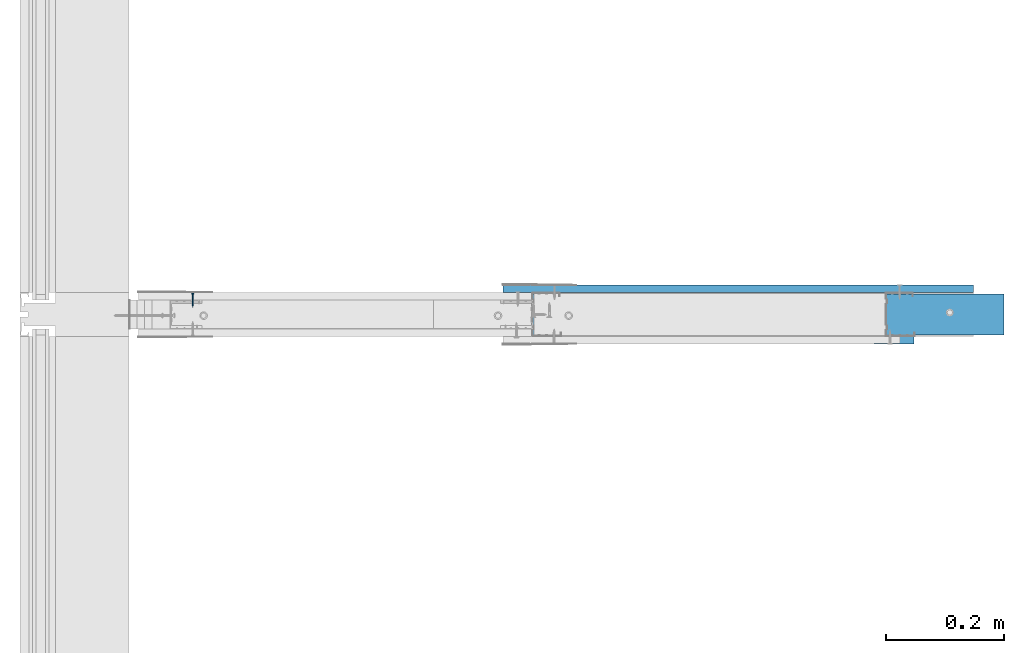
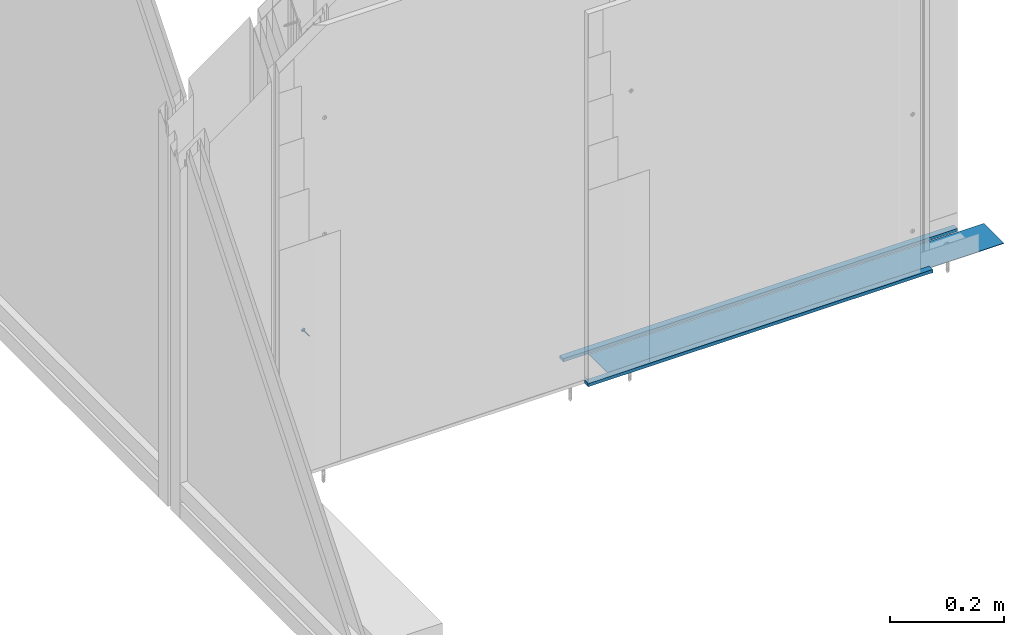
# One storey, part 7 of 42: 4 walls.
"""IFC2X3 building model written with IfcOpenShell, lengths in millimetres."""

from ifc_helpers import new_model, entity, si_unit, converted_unit, direction, frame, origin, origin_with_axes, place, context, project, spatial, faceted_brep, element, save


model = new_model("IFC2X3")

# Units and contexts
model_context = context("Model", 3, precision=1e-05, world=origin(), true_north=direction((0.0, 1.0, 0.0)))
ifc_project = project(units=[si_unit("LENGTHUNIT", "METRE", prefix="MILLI"), si_unit("AREAUNIT", "SQUARE_METRE"), si_unit("VOLUMEUNIT", "CUBIC_METRE"), converted_unit("PLANEANGLEUNIT", "DEGREE", entity("IfcPlaneAngleMeasure", 0.01745), si_unit("PLANEANGLEUNIT", "RADIAN"), dimensions=[0, 0, 0, 0, 0, 0, 0]), si_unit("SOLIDANGLEUNIT", "STERADIAN"), si_unit("MASSUNIT", "GRAM"), si_unit("TIMEUNIT", "SECOND"), si_unit("THERMODYNAMICTEMPERATUREUNIT", "DEGREE_CELSIUS"), si_unit("LUMINOUSINTENSITYUNIT", "LUMEN")], contexts=[model_context])

# Site, building, storey
site_placement = place(None, origin_with_axes())
site = spatial("IfcSite", under=ifc_project, at=site_placement, Name="Default Site", CompositionType="ELEMENT")
building_placement = place(site_placement, origin_with_axes())
building = spatial("IfcBuilding", under=site, at=building_placement, Name="Default Building", CompositionType="ELEMENT")
storey_placement = place(building_placement, origin_with_axes())
storey = spatial("IfcBuildingStorey", under=building, at=storey_placement, Name="Default Building Storey", CompositionType="ELEMENT", Elevation=0.0)

# Walls
wall_1_placement = place(storey_placement, frame((2280.89032292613, -1336.314155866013, -299.8785300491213), z_axis=(0.0, 0.0, 1.0), x_axis=(-1.0, -5.916968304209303e-16, 0.0)))
element("IfcWall", 1, at=wall_1_placement, inside=storey, Name="Wkręt RIGIPS TN 25", context=model_context, shape_type="Brep", body=[
    faceted_brep([(-141.5377463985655, -3390.556721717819, 555.8000000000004), (-141.5377463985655, -3391.020944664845, 555.8000000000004), (-141.4875329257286, -3391.020944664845, 555.1619773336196), (-141.4875329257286, -3390.556721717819, 555.1619773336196), (-141.338128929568, -3391.020944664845, 554.5396649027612), (-141.338128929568, -3390.556721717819, 554.5396649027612), (-141.0932132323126, -3391.020944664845, 553.9483861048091), (-141.0932132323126, -3390.556721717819, 553.9483861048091), (-140.7588164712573, -3391.020944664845, 553.4027001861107), (-140.7588164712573, -3390.556721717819, 553.4027001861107), (-140.3431726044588, -3391.020944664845, 552.9160437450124), (-140.4541727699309, -3390.556721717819, 553.0314907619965), (-140.1080097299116, -3390.556721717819, 552.6986614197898), (-139.8565161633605, -3391.020944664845, 552.5003998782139), (-139.7251262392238, -3390.556721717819, 552.4088262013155), (-139.3108302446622, -3391.020944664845, 552.1660031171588), (-139.3108302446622, -3390.556721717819, 552.1660031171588), (-138.8708651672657, -3390.556721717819, 551.9735584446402), (-138.7195514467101, -3391.020944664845, 551.9210874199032), (-138.4113302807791, -3390.556721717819, 551.8341600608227), (-137.9385961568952, -3390.556721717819, 551.7497404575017), (-138.0972390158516, -3391.020944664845, 551.7716834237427), (-137.459216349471, -3391.020944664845, 551.7214699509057), (-137.459216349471, -3390.556721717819, 551.7214699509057), (-136.8211936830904, -3391.020944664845, 551.7716834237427), (-136.8211936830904, -3390.556721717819, 551.7716834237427), (-136.198881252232, -3391.020944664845, 551.9210874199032), (-136.198881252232, -3390.556721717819, 551.9210874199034), (-135.6076024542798, -3391.020944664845, 552.1660031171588), (-135.6076024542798, -3390.556721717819, 552.1660031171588), (-135.0619165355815, -3391.020944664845, 552.5003998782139), (-135.0619165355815, -3390.556721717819, 552.5003998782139), (-134.5752600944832, -3391.020944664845, 552.9160437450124), (-134.5752600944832, -3390.556721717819, 552.9160437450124), (-134.1596162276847, -3391.020944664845, 553.4027001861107), (-134.1596162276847, -3390.556721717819, 553.4027001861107), (-133.8252194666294, -3391.020944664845, 553.9483861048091), (-133.8252194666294, -3390.556721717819, 553.9483861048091), (-133.580303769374, -3391.020944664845, 554.5396649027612), (-133.580303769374, -3390.556721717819, 554.5396649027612), (-133.4308997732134, -3391.020944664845, 556.4380226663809), (-133.4308997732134, -3390.556721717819, 556.4380226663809), (-133.3806863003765, -3390.556721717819, 555.8000000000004), (-133.3806863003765, -3391.020944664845, 555.8000000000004), (-133.4308997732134, -3390.556721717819, 555.1619773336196), (-133.4308997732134, -3391.020944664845, 555.1619773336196), (-133.580303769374, -3391.020944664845, 557.0603350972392), (-133.580303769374, -3390.556721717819, 557.0603350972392), (-133.8252194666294, -3391.020944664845, 557.6516138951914), (-133.8252194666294, -3390.556721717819, 557.6516138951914), (-134.1596162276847, -3391.020944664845, 558.1972998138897), (-134.1596162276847, -3390.556721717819, 558.1972998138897), (-134.5752600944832, -3391.020944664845, 558.683956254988), (-134.5752600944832, -3390.556721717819, 558.683956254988), (-135.0619165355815, -3391.020944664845, 559.0996001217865), (-135.0619165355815, -3390.556721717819, 559.0996001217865), (-135.6076024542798, -3391.020944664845, 559.4339968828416), (-135.6076024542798, -3390.556721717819, 559.4339968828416), (-136.198881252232, -3391.020944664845, 559.6789125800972), (-136.198881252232, -3390.556721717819, 559.6789125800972), (-136.8211936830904, -3391.020944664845, 559.8283165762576), (-136.8211936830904, -3390.556721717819, 559.8283165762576), (-137.459216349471, -3391.020944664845, 559.8785300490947), (-137.459216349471, -3390.556721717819, 559.8785300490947), (-138.0972390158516, -3391.020944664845, 559.8283165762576), (-138.0972390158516, -3390.556721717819, 559.8283165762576), (-138.7195514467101, -3391.020944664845, 559.6789125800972), (-138.7195514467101, -3390.556721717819, 559.6789125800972), (-139.3108302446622, -3391.020944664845, 559.4339968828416), (-139.3108302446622, -3390.556721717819, 559.4339968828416), (-139.8565161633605, -3391.020944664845, 559.0996001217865), (-139.8565161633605, -3390.556721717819, 559.0996001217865), (-140.3431726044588, -3391.020944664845, 558.683956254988), (-140.3431726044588, -3390.556721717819, 558.683956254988), (-140.7588164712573, -3391.020944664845, 558.1972998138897), (-140.7588164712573, -3390.556721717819, 558.1972998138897), (-141.0932132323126, -3391.020944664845, 557.6516138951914), (-141.0932132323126, -3390.556721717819, 557.6516138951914), (-141.338128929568, -3391.020944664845, 557.0603350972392), (-141.338128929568, -3390.556721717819, 557.0603350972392), (-141.4875329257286, -3391.020944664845, 556.4380226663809), (-141.4875329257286, -3390.556721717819, 556.4380226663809), (-137.8060615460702, -3388.229732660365, 554.5055560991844), (-137.459216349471, -3387.475459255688, 554.5693795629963), (-137.6517277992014, -3387.475459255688, 554.5845305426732), (-137.459216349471, -3388.229732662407, 554.4598930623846), (-137.8394989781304, -3387.475459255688, 554.6296104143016), (-138.1292698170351, -3388.229732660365, 554.639433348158), (-138.0179063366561, -3387.475459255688, 554.7035091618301), (-138.1825568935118, -3387.475459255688, 554.804407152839), (-138.4068150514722, -3388.229732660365, 554.8524012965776), (-138.3293964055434, -3387.475459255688, 554.929819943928), (-138.6197830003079, -3388.229732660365, 555.1299465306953), (-138.4548091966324, -3387.475459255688, 555.0766594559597), (-138.5557071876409, -3387.475459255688, 555.2413100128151), (-138.7536602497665, -3388.229732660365, 555.4531548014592), (-138.6296059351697, -3387.475459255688, 555.4197173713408), (-138.6746858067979, -3387.475459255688, 555.6074885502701), (-138.7993232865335, -3388.229732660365, 555.7999999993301), (-138.6898367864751, -3387.475459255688, 555.8000000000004), (-138.7536602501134, -3388.229732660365, 556.1468451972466), (-138.6746858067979, -3387.475459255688, 555.9925114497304), (-138.6296059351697, -3387.475459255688, 556.1802826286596), (-138.6197830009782, -3388.229732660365, 556.4700534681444), (-138.5557071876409, -3387.475459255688, 556.3586899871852), (-138.4548091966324, -3387.475459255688, 556.5233405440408), (-138.4068150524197, -3388.229732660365, 556.7475987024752), (-138.3293964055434, -3387.475459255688, 556.6701800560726), (-138.1292698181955, -3388.229732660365, 556.9605666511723), (-138.1825568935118, -3387.475459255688, 556.7955928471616), (-138.0179063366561, -3387.475459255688, 556.8964908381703), (-137.8060615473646, -3388.229732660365, 557.0944439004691), (-137.8394989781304, -3387.475459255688, 556.9703895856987), (-137.6517277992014, -3387.475459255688, 557.0154694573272), (-137.459216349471, -3388.229732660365, 557.1401069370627), (-137.459216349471, -3387.475459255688, 557.0306204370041), (-137.1123711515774, -3388.229732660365, 557.0944439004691), (-137.2667048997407, -3387.475459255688, 557.0154694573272), (-137.0789337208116, -3387.475459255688, 556.9703895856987), (-136.7891628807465, -3388.229732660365, 556.9605666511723), (-136.9005263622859, -3387.475459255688, 556.8964908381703), (-136.7358758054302, -3387.475459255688, 556.7955928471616), (-136.5116176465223, -3388.229732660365, 556.7475987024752), (-136.5890362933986, -3387.475459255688, 556.6701800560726), (-136.2986496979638, -3388.229732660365, 556.4700534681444), (-136.4636235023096, -3387.475459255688, 556.5233405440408), (-136.3627255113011, -3387.475459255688, 556.3586899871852), (-136.1647724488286, -3388.229732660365, 556.1468451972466), (-136.2888267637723, -3387.475459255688, 556.1802826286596), (-136.2437468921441, -3387.475459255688, 555.9925114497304), (-136.1191094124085, -3388.229732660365, 555.7999999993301), (-136.2285959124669, -3387.475459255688, 555.8000000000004), (-136.1647724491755, -3388.229732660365, 555.4531548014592), (-136.2437468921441, -3387.475459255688, 555.6074885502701), (-136.2888267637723, -3387.475459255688, 555.4197173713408), (-136.2986496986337, -3388.229732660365, 555.1299465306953), (-136.3627255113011, -3387.475459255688, 555.2413100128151), (-136.4636235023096, -3387.475459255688, 555.0766594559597), (-136.5116176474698, -3388.229732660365, 554.8524012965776), (-136.5890362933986, -3387.475459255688, 554.929819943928), (-136.7891628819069, -3388.229732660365, 554.639433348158), (-136.7358758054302, -3387.475459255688, 554.804407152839), (-136.9005263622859, -3387.475459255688, 554.7035091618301), (-137.1123711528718, -3388.229732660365, 554.5055560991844), (-137.0789337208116, -3387.475459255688, 554.6296104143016), (-137.2667048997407, -3387.475459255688, 554.5845305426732), (-137.459216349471, -3388.936142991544, 554.1737111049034), (-137.8801308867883, -3388.936142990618, 554.2291255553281), (-138.2723607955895, -3388.936142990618, 554.3915925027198), (-138.6091762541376, -3388.936142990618, 554.6500400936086), (-138.8676238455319, -3388.936142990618, 554.9868555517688), (-139.030090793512, -3388.936142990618, 555.3790854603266), (-139.0855052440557, -3388.936142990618, 555.7999999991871), (-139.0300907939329, -3388.936142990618, 556.2209145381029), (-138.8676238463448, -3388.936142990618, 556.6131444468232), (-138.6091762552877, -3388.936142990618, 556.949959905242), (-138.272360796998, -3388.936142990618, 557.2084074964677), (-137.8801308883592, -3388.936142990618, 557.3708744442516), (-137.459216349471, -3388.936142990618, 557.4262888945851), (-137.0383018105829, -3388.936142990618, 557.3708744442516), (-136.646071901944, -3388.936142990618, 557.2084074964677), (-136.3092564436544, -3388.936142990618, 556.949959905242), (-136.0508088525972, -3388.936142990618, 556.6131444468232), (-135.8883419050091, -3388.936142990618, 556.2209145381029), (-135.8329274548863, -3388.936142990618, 555.7999999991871), (-135.88834190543, -3388.936142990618, 555.3790854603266), (-136.0508088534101, -3388.936142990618, 554.9868555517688), (-136.3092564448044, -3388.936142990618, 554.6500400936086), (-136.6460719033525, -3388.936142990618, 554.3915925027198), (-137.0383018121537, -3388.936142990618, 554.2291255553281), (-137.459216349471, -3389.553938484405, 553.727343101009), (-137.995659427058, -3389.553938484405, 553.7979671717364), (-138.4955447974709, -3389.553938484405, 554.005026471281), (-138.9248060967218, -3389.553938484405, 554.334410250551), (-139.2541898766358, -3389.553938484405, 554.7636715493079), (-139.46124917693, -3389.553938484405, 555.2635569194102), (-139.5318732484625, -3389.553938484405, 555.7999999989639), (-139.4612491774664, -3389.553938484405, 556.3364430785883), (-139.2541898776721, -3389.553938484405, 556.8363284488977), (-138.9248060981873, -3389.553938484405, 557.2655897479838), (-138.495544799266, -3389.553938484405, 557.5949735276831), (-137.9956594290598, -3389.553938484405, 557.8020328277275), (-137.459216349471, -3389.553938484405, 557.8726568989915), (-136.9227732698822, -3389.553938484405, 557.8020328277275), (-136.422887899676, -3389.553938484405, 557.5949735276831), (-135.9936266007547, -3389.553938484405, 557.2655897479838), (-135.6642428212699, -3389.553938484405, 556.8363284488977), (-135.4571835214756, -3389.553938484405, 556.3364430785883), (-135.3865594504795, -3389.553938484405, 555.7999999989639), (-135.457183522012, -3389.553938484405, 555.2635569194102), (-135.6642428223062, -3389.553938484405, 554.7636715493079), (-135.9936266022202, -3389.553938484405, 554.334410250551), (-136.4228879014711, -3389.553938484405, 554.005026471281), (-136.922773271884, -3389.553938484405, 553.7979671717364), (-137.459216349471, -3390.047479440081, 553.1465393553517), (-138.1459824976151, -3390.047479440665, 553.2369538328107), (-138.7859466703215, -3390.047479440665, 553.5020356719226), (-139.3354963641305, -3390.047479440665, 553.9237199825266), (-139.7571806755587, -3390.047479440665, 554.4732696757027), (-140.0222625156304, -3390.047479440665, 555.1132338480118), (-140.1126769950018, -3390.047479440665, 555.7999999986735), (-140.0222625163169, -3390.047479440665, 556.4867661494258), (-139.7571806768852, -3390.047479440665, 557.1267303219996), (-139.3354963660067, -3390.047479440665, 557.6762800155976), (-138.7859466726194, -3390.047479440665, 558.0979643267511), (-138.1459825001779, -3390.047479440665, 558.3630461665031), (-137.459216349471, -3390.047479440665, 558.4534606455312), (-136.7724501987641, -3390.047479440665, 558.3630461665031), (-136.1324860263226, -3390.047479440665, 558.0979643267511), (-135.5829363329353, -3390.047479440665, 557.6762800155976), (-135.1612520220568, -3390.047479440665, 557.1267303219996), (-134.8961701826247, -3390.047479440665, 556.4867661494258), (-134.8057557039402, -3390.047479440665, 555.7999999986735), (-134.8961701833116, -3390.047479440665, 555.1132338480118), (-135.1612520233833, -3390.047479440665, 554.4732696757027), (-135.5829363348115, -3390.047479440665, 553.9237199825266), (-136.1324860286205, -3390.047479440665, 553.5020356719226), (-136.7724502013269, -3390.047479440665, 553.2369538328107), (-137.459216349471, -3390.388294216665, 552.4648055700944), (-138.3224281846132, -3390.388294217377, 552.5784495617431), (-139.1268135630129, -3390.388294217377, 552.9116368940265), (-139.8175549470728, -3390.388294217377, 553.4416613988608), (-140.3475794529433, -3390.388294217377, 554.1324027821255), (-140.6807667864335, -3390.388294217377, 554.9367881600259), (-140.7944107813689, -3390.388294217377, 555.7999999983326), (-140.6807667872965, -3390.388294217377, 556.6632118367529), (-140.3475794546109, -3390.388294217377, 557.4675972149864), (-139.8175549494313, -3390.388294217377, 558.1583385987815), (-139.1268135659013, -3390.388294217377, 558.6883631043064), (-138.3224281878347, -3390.388294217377, 559.0215504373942), (-137.459216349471, -3390.388294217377, 559.1351944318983), (-136.5960045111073, -3390.388294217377, 559.0215504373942), (-135.7916191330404, -3390.388294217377, 558.6883631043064), (-135.1008777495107, -3390.388294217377, 558.1583385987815), (-134.5708532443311, -3390.388294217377, 557.4675972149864), (-134.2376659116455, -3390.388294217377, 556.6632118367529), (-134.1240219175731, -3390.388294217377, 555.7999999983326), (-134.2376659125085, -3390.388294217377, 554.9367881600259), (-134.5708532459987, -3390.388294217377, 554.1324027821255), (-135.1008777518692, -3390.388294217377, 553.4416613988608), (-135.7916191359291, -3390.388294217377, 552.9116368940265), (-136.5960045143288, -3390.388294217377, 552.5784495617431), (-138.6898367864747, -3370.55807436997, 555.8000000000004), (-138.6746858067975, -3370.55807436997, 555.6074885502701), (-138.6296059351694, -3370.55807436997, 555.4197173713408), (-138.5557071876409, -3370.55807436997, 555.2413100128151), (-138.4548091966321, -3370.55807436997, 555.0766594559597), (-138.329396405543, -3370.55807436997, 554.929819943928), (-138.1825568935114, -3370.55807436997, 554.804407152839), (-138.0179063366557, -3370.55807436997, 554.7035091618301), (-137.83949897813, -3370.55807436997, 554.6296104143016), (-137.651727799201, -3370.55807436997, 554.5845305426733), (-137.4592163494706, -3370.55807436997, 554.5693795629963), (-137.2667048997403, -3370.55807436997, 554.5845305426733), (-137.0789337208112, -3370.55807436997, 554.6296104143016), (-136.9005263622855, -3370.55807436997, 554.7035091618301), (-136.7358758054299, -3370.55807436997, 554.804407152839), (-136.5890362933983, -3370.55807436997, 554.929819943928), (-136.4636235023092, -3370.55807436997, 555.0766594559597), (-136.3627255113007, -3370.55807436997, 555.2413100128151), (-136.2888267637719, -3370.55807436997, 555.4197173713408), (-136.2437468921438, -3370.55807436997, 555.9925114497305), (-136.2285959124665, -3370.55807436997, 555.8000000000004), (-136.2437468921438, -3370.55807436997, 555.6074885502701), (-136.2888267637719, -3370.55807436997, 556.1802826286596), (-136.3627255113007, -3370.55807436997, 556.3586899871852), (-136.4636235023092, -3370.55807436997, 556.5233405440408), (-136.5890362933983, -3370.55807436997, 556.6701800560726), (-136.7358758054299, -3370.55807436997, 556.7955928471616), (-136.9005263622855, -3370.55807436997, 556.8964908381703), (-137.0789337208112, -3370.55807436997, 556.9703895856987), (-137.2667048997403, -3370.55807436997, 557.0154694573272), (-137.4592163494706, -3370.55807436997, 557.0306204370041), (-137.651727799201, -3370.55807436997, 557.0154694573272), (-137.83949897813, -3370.55807436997, 556.9703895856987), (-138.0179063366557, -3370.55807436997, 556.8964908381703), (-138.1825568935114, -3370.55807436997, 556.7955928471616), (-138.329396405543, -3370.55807436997, 556.6701800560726), (-138.4548091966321, -3370.55807436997, 556.5233405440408), (-138.5557071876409, -3370.55807436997, 556.3586899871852), (-138.6296059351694, -3370.55807436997, 556.1802826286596), (-138.6746858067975, -3370.55807436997, 555.9925114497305), (-137.4592163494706, -3366.021033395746, 555.8000000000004), (-139.9592163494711, -3391.020944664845, 556.3000000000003), (-137.9592163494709, -3391.020944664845, 556.3000000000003), (-139.9592163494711, -3391.020944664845, 555.3000000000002), (-137.9592163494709, -3391.020944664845, 555.3000000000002), (-137.9592163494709, -3391.020944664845, 553.3000000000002), (-136.9592163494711, -3391.020944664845, 553.3000000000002), (-136.9592163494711, -3391.020944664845, 555.3000000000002), (-134.9592163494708, -3391.020944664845, 555.3000000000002), (-134.9592163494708, -3391.020944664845, 556.3000000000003), (-136.9592163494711, -3391.020944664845, 556.3000000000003), (-136.9592163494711, -3391.020944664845, 558.3000000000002), (-137.9592163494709, -3391.020944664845, 558.3000000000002), (-136.9592163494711, -3390.128974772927, 556.3000000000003), (-134.9592163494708, -3390.128974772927, 556.3000000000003), (-134.9592163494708, -3390.128974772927, 555.3000000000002), (-136.9592163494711, -3390.128974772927, 555.3000000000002), (-136.9592163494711, -3390.128974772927, 553.3000000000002), (-137.9592163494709, -3390.128974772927, 553.3000000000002), (-137.9592163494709, -3390.128974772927, 555.3000000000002), (-139.9592163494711, -3390.128974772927, 555.3000000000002), (-139.9592163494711, -3390.128974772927, 556.3000000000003), (-137.9592163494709, -3390.128974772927, 556.3000000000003), (-137.9592163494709, -3390.128974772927, 558.3000000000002), (-136.9592163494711, -3390.128974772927, 558.3000000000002)], [[[0, 1, 2, 3]], [[4, 5, 3, 2]], [[6, 7, 5, 4]], [[7, 6, 8, 9]], [[8, 10, 9]], [[10, 11, 9]], [[12, 11, 13]], [[11, 10, 13]], [[13, 14, 12]], [[13, 15, 14]], [[15, 16, 14]], [[17, 16, 18]], [[16, 15, 18]], [[18, 19, 17]], [[20, 19, 21]], [[19, 18, 21]], [[21, 22, 20]], [[22, 23, 20]], [[23, 22, 24, 25]], [[26, 27, 25, 24]], [[28, 29, 27, 26]], [[29, 28, 30, 31]], [[32, 33, 31, 30]], [[33, 32, 34, 35]], [[36, 37, 35, 34]], [[38, 39, 37, 36]], [[40, 41, 42, 43]], [[43, 42, 44, 45]], [[39, 38, 45, 44]], [[46, 47, 41, 40]], [[48, 49, 47, 46]], [[49, 48, 50, 51]], [[52, 53, 51, 50]], [[53, 52, 54, 55]], [[56, 57, 55, 54]], [[58, 59, 57, 56]], [[59, 58, 60, 61]], [[62, 63, 61, 60]], [[63, 62, 64, 65]], [[66, 67, 65, 64]], [[68, 69, 67, 66]], [[69, 68, 70, 71]], [[72, 73, 71, 70]], [[73, 72, 74, 75]], [[76, 77, 75, 74]], [[78, 79, 77, 76]], [[79, 78, 80, 81]], [[1, 0, 81, 80]], [[82, 83, 84]], [[82, 85, 83]], [[84, 86, 82]], [[82, 86, 87]], [[88, 87, 86]], [[87, 88, 89]], [[89, 90, 87]], [[89, 91, 90]], [[92, 91, 93]], [[92, 90, 91]], [[93, 94, 92]], [[92, 94, 95]], [[96, 95, 94]], [[95, 96, 97]], [[97, 98, 95]], [[97, 99, 98]], [[100, 99, 101]], [[100, 98, 99]], [[101, 102, 100]], [[100, 102, 103]], [[104, 103, 102]], [[103, 104, 105]], [[105, 106, 103]], [[105, 107, 106]], [[108, 107, 109]], [[108, 106, 107]], [[109, 110, 108]], [[108, 110, 111]], [[112, 111, 110]], [[111, 112, 113]], [[113, 114, 111]], [[113, 115, 114]], [[116, 115, 117]], [[116, 114, 115]], [[117, 118, 116]], [[116, 118, 119]], [[120, 119, 118]], [[119, 120, 121]], [[121, 122, 119]], [[121, 123, 122]], [[124, 123, 125]], [[124, 122, 123]], [[125, 126, 124]], [[124, 126, 127]], [[128, 127, 126]], [[127, 128, 129]], [[129, 130, 127]], [[129, 131, 130]], [[132, 131, 133]], [[132, 130, 131]], [[133, 134, 132]], [[132, 134, 135]], [[136, 135, 134]], [[135, 136, 137]], [[137, 138, 135]], [[137, 139, 138]], [[140, 139, 141]], [[140, 138, 139]], [[141, 142, 140]], [[140, 142, 143]], [[144, 143, 142]], [[143, 144, 145]], [[145, 85, 143]], [[145, 83, 85]], [[146, 85, 147]], [[82, 147, 85]], [[87, 148, 147, 82]], [[90, 149, 148, 87]], [[92, 150, 149, 90]], [[95, 151, 150, 92]], [[98, 152, 151, 95]], [[100, 153, 152, 98]], [[103, 154, 153, 100]], [[106, 155, 154, 103]], [[108, 156, 155, 106]], [[111, 157, 156, 108]], [[114, 158, 157, 111]], [[116, 159, 158, 114]], [[119, 160, 159, 116]], [[122, 161, 160, 119]], [[124, 162, 161, 122]], [[127, 163, 162, 124]], [[130, 164, 163, 127]], [[132, 165, 164, 130]], [[135, 166, 165, 132]], [[138, 167, 166, 135]], [[140, 168, 167, 138]], [[143, 169, 168, 140]], [[143, 85, 169]], [[146, 169, 85]], [[170, 146, 171]], [[147, 171, 146]], [[148, 172, 171, 147]], [[149, 173, 172, 148]], [[150, 174, 173, 149]], [[151, 175, 174, 150]], [[152, 176, 175, 151]], [[153, 177, 176, 152]], [[154, 178, 177, 153]], [[155, 179, 178, 154]], [[156, 180, 179, 155]], [[157, 181, 180, 156]], [[158, 182, 181, 157]], [[159, 183, 182, 158]], [[160, 184, 183, 159]], [[161, 185, 184, 160]], [[162, 186, 185, 161]], [[163, 187, 186, 162]], [[164, 188, 187, 163]], [[165, 189, 188, 164]], [[166, 190, 189, 165]], [[167, 191, 190, 166]], [[168, 192, 191, 167]], [[169, 193, 192, 168]], [[169, 146, 193]], [[170, 193, 146]], [[194, 170, 195]], [[171, 195, 170]], [[172, 196, 195, 171]], [[173, 197, 196, 172]], [[174, 198, 197, 173]], [[175, 199, 198, 174]], [[176, 200, 199, 175]], [[177, 201, 200, 176]], [[178, 202, 201, 177]], [[179, 203, 202, 178]], [[180, 204, 203, 179]], [[181, 205, 204, 180]], [[182, 206, 205, 181]], [[183, 207, 206, 182]], [[184, 208, 207, 183]], [[185, 209, 208, 184]], [[186, 210, 209, 185]], [[187, 211, 210, 186]], [[188, 212, 211, 187]], [[189, 213, 212, 188]], [[190, 214, 213, 189]], [[191, 215, 214, 190]], [[192, 216, 215, 191]], [[193, 217, 216, 192]], [[193, 170, 217]], [[194, 217, 170]], [[218, 19, 20]], [[218, 219, 19]], [[20, 23, 218]], [[218, 194, 219]], [[195, 219, 194]], [[219, 16, 17]], [[219, 220, 16]], [[17, 19, 219]], [[196, 220, 219, 195]], [[221, 11, 12]], [[220, 12, 14]], [[220, 221, 12]], [[14, 16, 220]], [[197, 221, 220, 196]], [[222, 7, 9]], [[9, 221, 222]], [[9, 11, 221]], [[198, 222, 221, 197]], [[5, 7, 223]], [[222, 223, 7]], [[199, 223, 222, 198]], [[223, 0, 3]], [[223, 224, 0]], [[3, 5, 223]], [[200, 224, 223, 199]], [[225, 79, 81]], [[81, 224, 225]], [[81, 0, 224]], [[201, 225, 224, 200]], [[225, 226, 77, 79]], [[202, 226, 225, 201]], [[226, 73, 75]], [[226, 227, 73]], [[75, 77, 226]], [[203, 227, 226, 202]], [[228, 69, 71]], [[71, 227, 228]], [[71, 73, 227]], [[204, 228, 227, 203]], [[228, 229, 67, 69]], [[205, 229, 228, 204]], [[229, 63, 65]], [[229, 230, 63]], [[65, 67, 229]], [[206, 230, 229, 205]], [[231, 59, 61]], [[61, 230, 231]], [[61, 63, 230]], [[207, 231, 230, 206]], [[231, 232, 57, 59]], [[208, 232, 231, 207]], [[232, 53, 55]], [[232, 233, 53]], [[55, 57, 232]], [[209, 233, 232, 208]], [[234, 49, 51]], [[51, 233, 234]], [[51, 53, 233]], [[210, 234, 233, 209]], [[234, 235, 47, 49]], [[211, 235, 234, 210]], [[235, 42, 41]], [[235, 236, 42]], [[41, 47, 235]], [[212, 236, 235, 211]], [[237, 39, 44]], [[44, 236, 237]], [[44, 42, 236]], [[213, 237, 236, 212]], [[37, 39, 238]], [[237, 238, 39]], [[214, 238, 237, 213]], [[238, 33, 35]], [[238, 239, 33]], [[35, 37, 238]], [[215, 239, 238, 214]], [[240, 29, 31]], [[31, 239, 240]], [[31, 33, 239]], [[216, 240, 239, 215]], [[27, 29, 241]], [[240, 241, 29]], [[217, 241, 240, 216]], [[217, 194, 241]], [[218, 241, 194]], [[241, 23, 25]], [[241, 218, 23]], [[25, 27, 241]], [[242, 99, 97, 243]], [[96, 244, 243, 97]], [[94, 245, 244, 96]], [[245, 94, 93, 246]], [[91, 247, 246, 93]], [[247, 91, 89, 248]], [[88, 249, 248, 89]], [[86, 250, 249, 88]], [[250, 86, 84, 251]], [[83, 252, 251, 84]], [[252, 83, 145, 253]], [[144, 254, 253, 145]], [[142, 255, 254, 144]], [[255, 142, 141, 256]], [[139, 257, 256, 141]], [[257, 139, 137, 258]], [[136, 259, 258, 137]], [[134, 260, 259, 136]], [[129, 261, 262, 131]], [[131, 262, 263, 133]], [[260, 134, 133, 263]], [[128, 264, 261, 129]], [[126, 265, 264, 128]], [[265, 126, 125, 266]], [[123, 267, 266, 125]], [[267, 123, 121, 268]], [[120, 269, 268, 121]], [[118, 270, 269, 120]], [[270, 118, 117, 271]], [[115, 272, 271, 117]], [[272, 115, 113, 273]], [[112, 274, 273, 113]], [[110, 275, 274, 112]], [[275, 110, 109, 276]], [[107, 277, 276, 109]], [[277, 107, 105, 278]], [[104, 279, 278, 105]], [[102, 280, 279, 104]], [[280, 102, 101, 281]], [[99, 242, 281, 101]], [[243, 244, 282]], [[282, 242, 243]], [[244, 245, 282]], [[246, 247, 282]], [[282, 245, 246]], [[248, 249, 282]], [[282, 247, 248]], [[249, 250, 282]], [[251, 252, 282]], [[282, 250, 251]], [[253, 254, 282]], [[282, 252, 253]], [[254, 255, 282]], [[256, 257, 282]], [[282, 255, 256]], [[258, 259, 282]], [[282, 257, 258]], [[259, 260, 282]], [[263, 262, 282]], [[282, 260, 263]], [[261, 264, 282]], [[282, 262, 261]], [[264, 265, 282]], [[266, 267, 282]], [[282, 265, 266]], [[268, 269, 282]], [[282, 267, 268]], [[269, 270, 282]], [[271, 272, 282]], [[282, 270, 271]], [[273, 274, 282]], [[282, 272, 273]], [[274, 275, 282]], [[276, 277, 282]], [[282, 275, 276]], [[278, 279, 282]], [[282, 277, 278]], [[279, 280, 282]], [[281, 242, 282]], [[282, 280, 281]], [[283, 76, 74, 284]], [[283, 285, 286, 287, 288, 289, 290, 291, 292, 293, 294, 284, 74, 72, 70, 68, 66, 64, 62, 60, 58, 56, 54, 52, 50, 48, 46, 40, 43, 45, 38, 36, 34, 32, 30, 28, 26, 24, 22, 21, 18, 15, 13, 10, 8, 6, 4, 2, 1, 80, 78, 76]], [[295, 296, 297, 298, 299, 300, 301, 302, 303, 304, 305, 306]], [[297, 290, 289, 298]], [[296, 291, 290, 297]], [[295, 292, 291, 296]], [[306, 293, 292, 295]], [[305, 294, 293, 306]], [[304, 284, 294, 305]], [[303, 283, 284, 304]], [[302, 285, 283, 303]], [[301, 286, 285, 302]], [[300, 287, 286, 301]], [[299, 288, 287, 300]], [[298, 289, 288, 299]]]),
])
wall_2_placement = place(storey_placement, frame((2852.093414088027, 2025.495943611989, 0.2472135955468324), z_axis=(0.0, 0.0, 1.0), x_axis=(1.0, 0.0, 0.0)))
element("IfcWall", 2, at=wall_2_placement, inside=storey, Name="Taśma uszczelniająca piankowa RIGIPS", context=model_context, shape_type="Brep", body=[
    faceted_brep([(143.2385246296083, -43.50000002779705, 2.99841831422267), (943.792922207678, -43.50000002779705, 2.99841831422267), (943.792922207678, 26.69999997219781, 3.001783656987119), (143.238524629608, 26.69999997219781, 3.001783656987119), (143.2385246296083, 26.69987814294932, 1.996233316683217), (143.2385246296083, -43.50012185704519, 1.994449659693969), (943.792922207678, 26.69987814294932, 1.996233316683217), (943.792922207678, -43.50012185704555, 1.994449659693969)], [[[0, 1, 2, 3]], [[3, 4, 5, 0]], [[6, 4, 3, 2]], [[2, 1, 7, 6]], [[7, 5, 4, 6]], [[1, 0, 5, 7]]]),
])
wall_3_placement = place(storey_placement, frame((4197.938280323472, 2054.706788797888, 6.305888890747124), z_axis=(0.0, 0.0, 1.0), x_axis=(1.0, 0.0, 0.0)))
element("IfcWall", 3, at=wall_3_placement, inside=storey, Name="Dedykowana masa szpachlowa Rigips - konstrukcyjna", context=model_context, shape_type="Brep", body=[
    faceted_brep([(-454.0595171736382, 12.5391547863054, -4.064225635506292), (-454.0595171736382, 0.0, -4.064225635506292), (-1252.759128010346, 0.0, -4.064225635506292), (-1252.759128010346, 12.5391547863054, -4.064225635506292), (-454.0595171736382, 0.0, 2.800000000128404), (-1252.759128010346, 0.0, 2.800000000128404), (-454.0595171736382, 12.5391547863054, 2.800000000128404), (-1252.759128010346, 12.5391547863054, 2.800000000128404)], [[[0, 1, 2, 3]], [[1, 4, 5, 2]], [[4, 6, 7, 5]], [[6, 0, 3, 7]], [[7, 3, 2, 5]], [[0, 6, 4, 1]]]),
])
wall_4_placement = place(storey_placement, frame((4073.139131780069, 1954.745943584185, 6.305888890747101), z_axis=(0.0, 0.0, 1.0), x_axis=(1.0, 0.0, 0.0)))
element("IfcWall", 4, at=wall_4_placement, inside=storey, Name="Dedykowana masa szpachlowa Rigips - konstrukcyjna", context=model_context, shape_type="Brep", body=[
    faceted_brep([(-429.9471902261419, 25.00000000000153, -4.064225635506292), (-429.9471902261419, 12.4999999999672, -4.064225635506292), (-1127.959979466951, 12.4999999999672, -4.064225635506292), (-1127.959979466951, 25.00000000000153, -4.064225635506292), (-429.9471902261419, 12.4999999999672, 2.800000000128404), (-1127.959979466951, 12.4999999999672, 2.800000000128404), (-429.9471902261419, 25.00000000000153, 2.800000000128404), (-1127.959979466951, 25.00000000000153, 2.800000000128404)], [[[0, 1, 2, 3]], [[1, 4, 5, 2]], [[4, 6, 7, 5]], [[6, 0, 3, 7]], [[7, 3, 2, 5]], [[0, 6, 4, 1]]]),
])

save(model, "model.ifc")
